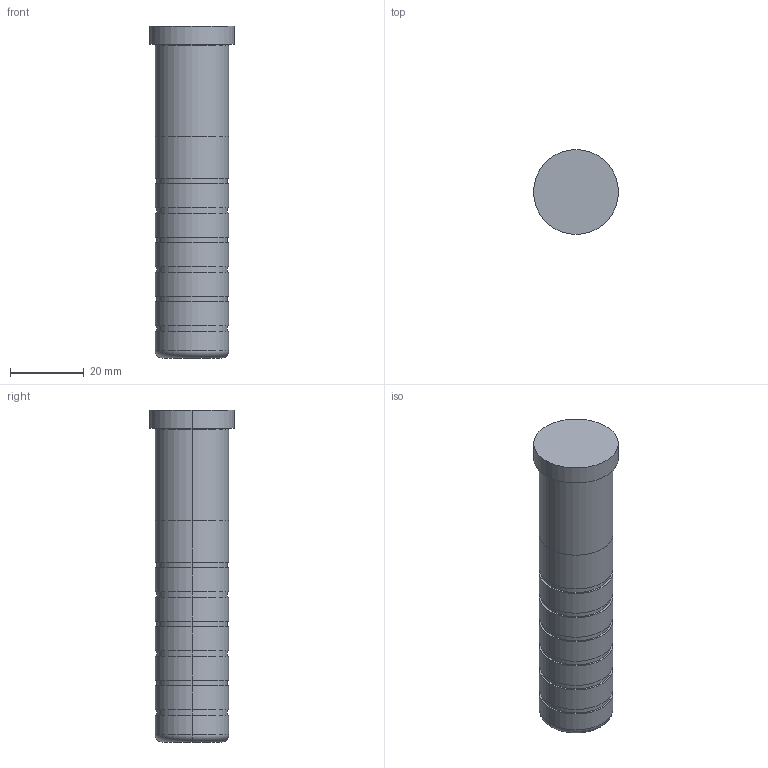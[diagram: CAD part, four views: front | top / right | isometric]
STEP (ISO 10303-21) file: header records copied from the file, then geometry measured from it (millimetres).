
FILE_DESCRIPTION(/* description */ (''),/* implementation_level */ '2;1');
FILE_NAME(/* name */ '3d_sgoh20-90_05195_r00.stp',/* time_stamp */ '2011-01-10T14:11:08+09:00',/* author */ ('MISUMI'),/* organization */ (''),/* preprocessor_version */ 'ST-DEVELOPER v11',/* originating_system */ 'UGS - NX 5.0',/* authorisation */ '');
FILE_SCHEMA (('CONFIG_CONTROL_DESIGN'));
Length unit declared in the file: millimetre
Products named in the file (1): 3d_sgoh20-90_05195_r00
Bounding box: 23 x 23 x 90 mm (x, y, z)
Volume: 28454.6 mm3; surface area: 6809.8 mm2
Topology: 1 solids, 1 shells, 49 faces, 96 edges, 62 vertices
Faces by surface type: cylinder 30, plane 15, torus 4
Entity records: 1374 total; most frequent: DIRECTION 262, CARTESIAN_POINT 208, ORIENTED_EDGE 192, AXIS2_PLACEMENT_3D 116, EDGE_CURVE 96, CIRCLE 66, EDGE_LOOP 62, VERTEX_POINT 62
